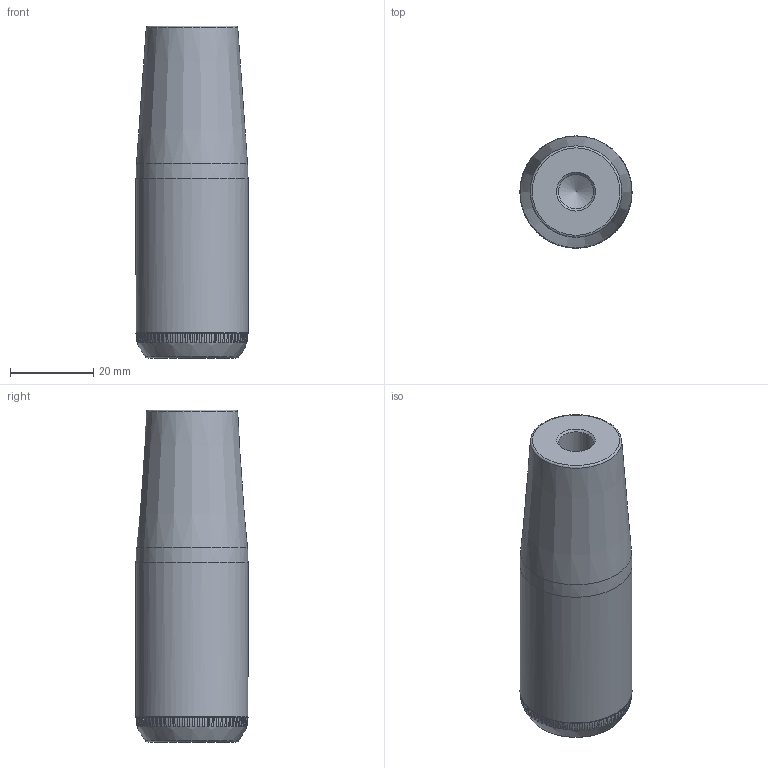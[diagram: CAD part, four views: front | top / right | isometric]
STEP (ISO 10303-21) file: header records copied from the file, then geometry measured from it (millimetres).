
FILE_DESCRIPTION(/* description */ (''),/* implementation_level */ '2;1');
FILE_NAME(/* name */ '\\SYNOLOGYNAS\web\db2\XOG_M\도면\XOG10-80.stp',/* time_stamp */ '2026-05-15T15:26:57+09:00',/* author */ ('user'),/* organization */ (''),/* preprocessor_version */ 'ST-DEVELOPER v15.6',/* originating_system */ 'Autodesk Inventor 2015',/* authorisation */ '');
FILE_SCHEMA (('AUTOMOTIVE_DESIGN { 1 0 10303 214 3 1 1 }'));
Length unit declared in the file: millimetre
Products named in the file (1): XOG10-80
Bounding box: 27 x 27 x 80 mm (x, y, z)
Volume: 40827.6 mm3; surface area: 7859.1 mm2
Topology: 1 solids, 1 shells, 364 faces, 943 edges, 581 vertices
Faces by surface type: plane 284, cylinder 73, cone 3, torus 2, bspline 2
Full cylindrical faces by diameter (mm): 8.376 x1, 27 x1
Entity records: 13954 total; most frequent: CARTESIAN_POINT 5393, ORIENTED_EDGE 1868, DIRECTION 1740, EDGE_CURVE 934, AXIS2_PLACEMENT_3D 728, VERTEX_POINT 579, EDGE_LOOP 371, CIRCLE 365
